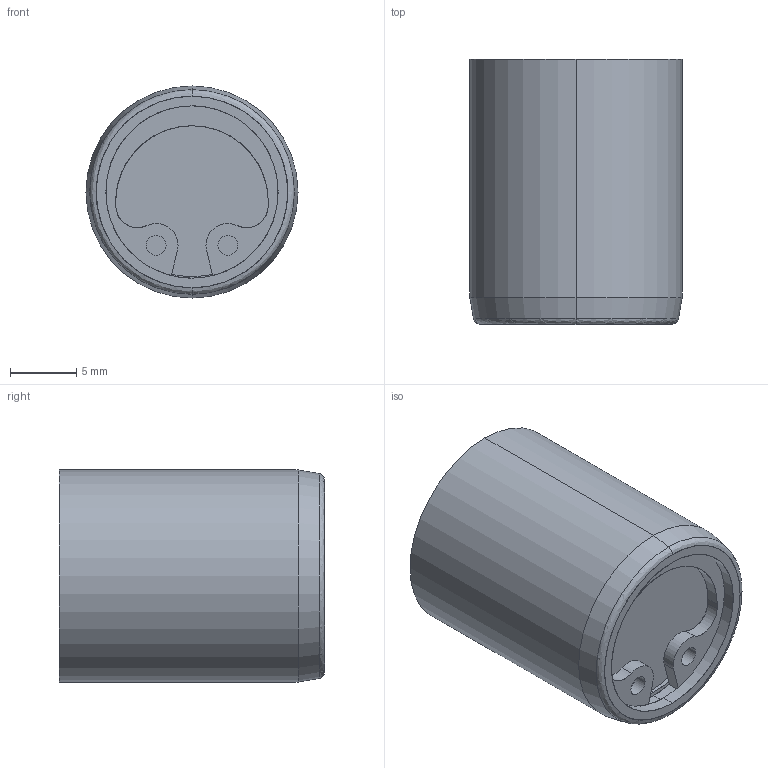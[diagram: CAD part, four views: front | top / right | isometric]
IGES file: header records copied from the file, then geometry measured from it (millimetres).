
Start section: START RECORD GO HERE.
Global section: file name: fv161320.igs; native system: DASSAULT SYSTEMES CATIA V5 R20 - www.3ds.com; preprocessor: CATIA Version 5 Release 20 ; author: Utente; organization: NB04-ASUS; date: 20201103.210753; units: millimetre
Bounding box: 16 x 20 x 16 mm (x, y, z)
Surface area: 3796.9 mm2 (no closed solid volume)
Topology: 0 solids, 0 shells, 157 faces, 732 edges, 732 vertices
Faces by surface type: revolution 88, plane 45, bspline 24
